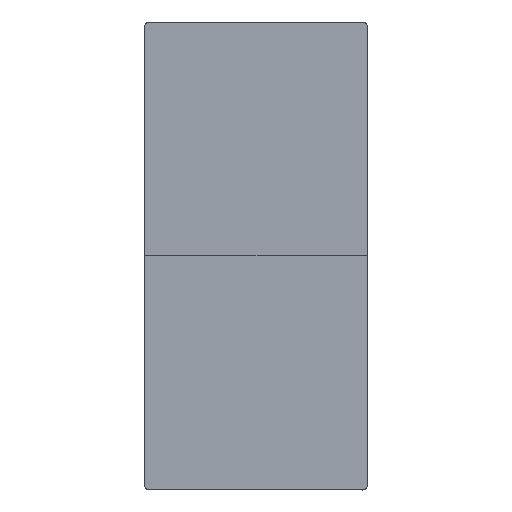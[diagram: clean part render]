
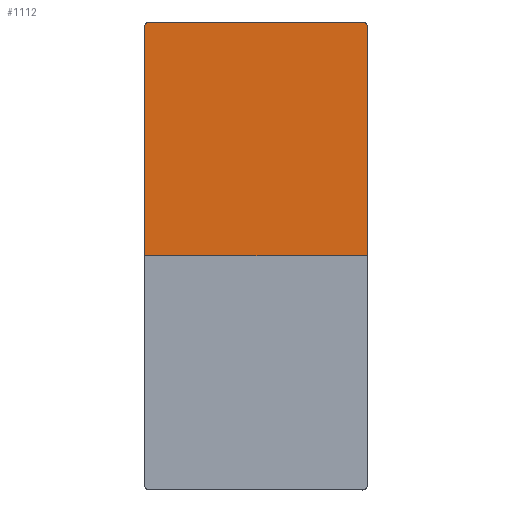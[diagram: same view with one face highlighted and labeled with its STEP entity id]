
A CAD part, top view. The second image highlights one B-rep face of the part: STEP entity #1112.
In plain terms, the highlighted planar face has unit normal (0, 0, 1).
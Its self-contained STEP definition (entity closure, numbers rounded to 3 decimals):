
#1112=ADVANCED_FACE('',(#2430),#20189,.T.);
#2430=FACE_OUTER_BOUND('',#3861,.T.);
#3861=EDGE_LOOP('',(#7413,#7414,#7415,#7416,#7417,#7418));
#7413=ORIENTED_EDGE('',*,*,#12351,.T.);
#7414=ORIENTED_EDGE('',*,*,#12354,.T.);
#7415=ORIENTED_EDGE('',*,*,#12356,.T.);
#7416=ORIENTED_EDGE('',*,*,#12341,.T.);
#7417=ORIENTED_EDGE('',*,*,#12345,.T.);
#7418=ORIENTED_EDGE('',*,*,#12348,.T.);
#12341=EDGE_CURVE('',#18112,#18111,#16204,.T.);
#12345=EDGE_CURVE('',#18111,#18114,#16208,.T.);
#12348=EDGE_CURVE('',#18114,#18116,#14723,.T.);
#12351=EDGE_CURVE('',#18116,#18118,#16212,.T.);
#12354=EDGE_CURVE('',#18118,#18120,#14725,.T.);
#12356=EDGE_CURVE('',#18120,#18112,#16215,.T.);
#14723=(
BOUNDED_CURVE()
B_SPLINE_CURVE(2,(#36565,#36566,#36567),.UNSPECIFIED.,.F.,.F.)
B_SPLINE_CURVE_WITH_KNOTS((3,3),(-28.274,0.),.UNSPECIFIED.)
CURVE()
GEOMETRIC_REPRESENTATION_ITEM()
RATIONAL_B_SPLINE_CURVE((1.,0.707,1.))
REPRESENTATION_ITEM('')
);
#14725=(
BOUNDED_CURVE()
B_SPLINE_CURVE(2,(#36579,#36580,#36581),.UNSPECIFIED.,.F.,.F.)
B_SPLINE_CURVE_WITH_KNOTS((3,3),(-28.039,0.),.UNSPECIFIED.)
CURVE()
GEOMETRIC_REPRESENTATION_ITEM()
RATIONAL_B_SPLINE_CURVE((1.,0.707,1.))
REPRESENTATION_ITEM('')
);
#16204=B_SPLINE_CURVE_WITH_KNOTS('',1,(#36550,#36551),.UNSPECIFIED.,.F.,
 .F.,(2,2),(-71.25,23.75),.UNSPECIFIED.);
#16208=B_SPLINE_CURVE_WITH_KNOTS('',1,(#36558,#36559),.UNSPECIFIED.,.F.,
 .F.,(2,2),(-74.1,24.1),.UNSPECIFIED.);
#16212=B_SPLINE_CURVE_WITH_KNOTS('',1,(#36572,#36573),.UNSPECIFIED.,.F.,
 .F.,(2,2),(-68.558,22.858),.UNSPECIFIED.);
#16215=B_SPLINE_CURVE_WITH_KNOTS('',1,(#36584,#36585),.UNSPECIFIED.,.F.,
 .F.,(2,2),(-73.215,25.),.UNSPECIFIED.);
#18111=VERTEX_POINT('',#35230);
#18112=VERTEX_POINT('',#35231);
#18114=VERTEX_POINT('',#35233);
#18116=VERTEX_POINT('',#35235);
#18118=VERTEX_POINT('',#35237);
#18120=VERTEX_POINT('',#35239);
#20189=PLANE('',#20785);
#20785=AXIS2_PLACEMENT_3D('',#34360,#21365,$);
#21365=DIRECTION('',(0.,0.,1.));
#34360=CARTESIAN_POINT('',(-9.1,385.54,18.498));
#35230=CARTESIAN_POINT('',(940.91,385.55,18.498));
#35231=CARTESIAN_POINT('',(-9.09,385.55,18.498));
#35233=CARTESIAN_POINT('',(940.91,1367.55,18.498));
#35235=CARTESIAN_POINT('',(922.91,1385.55,18.498));
#35237=CARTESIAN_POINT('',(8.76,1385.55,18.498));
#35239=CARTESIAN_POINT('',(-9.09,1367.7,18.498));
#36550=CARTESIAN_POINT('',(-9.09,385.55,18.498));
#36551=CARTESIAN_POINT('',(940.91,385.55,18.498));
#36558=CARTESIAN_POINT('',(940.91,385.55,18.498));
#36559=CARTESIAN_POINT('',(940.91,1367.55,18.498));
#36565=CARTESIAN_POINT('',(940.91,1367.55,18.498));
#36566=CARTESIAN_POINT('',(940.91,1385.55,18.498));
#36567=CARTESIAN_POINT('',(922.91,1385.55,18.498));
#36572=CARTESIAN_POINT('',(922.91,1385.55,18.498));
#36573=CARTESIAN_POINT('',(8.76,1385.55,18.498));
#36579=CARTESIAN_POINT('',(8.76,1385.55,18.498));
#36580=CARTESIAN_POINT('',(-9.09,1385.55,18.498));
#36581=CARTESIAN_POINT('',(-9.09,1367.7,18.498));
#36584=CARTESIAN_POINT('',(-9.09,1367.7,18.498));
#36585=CARTESIAN_POINT('',(-9.09,385.55,18.498));
